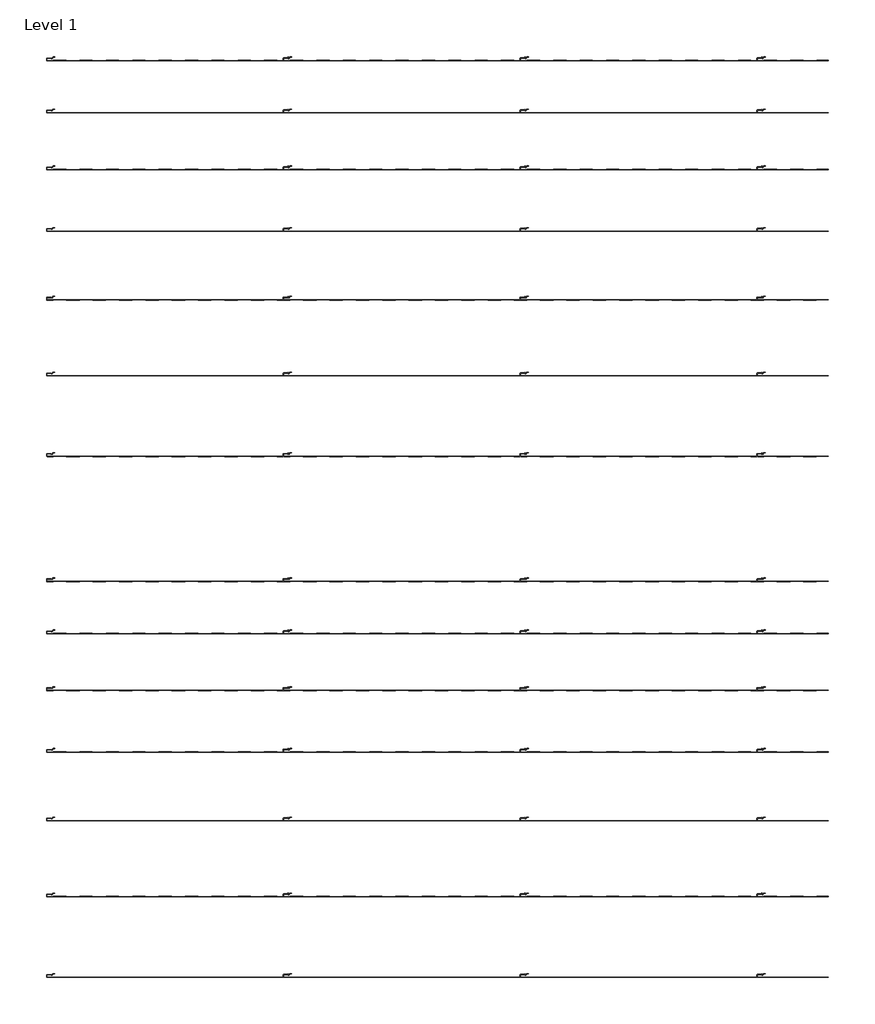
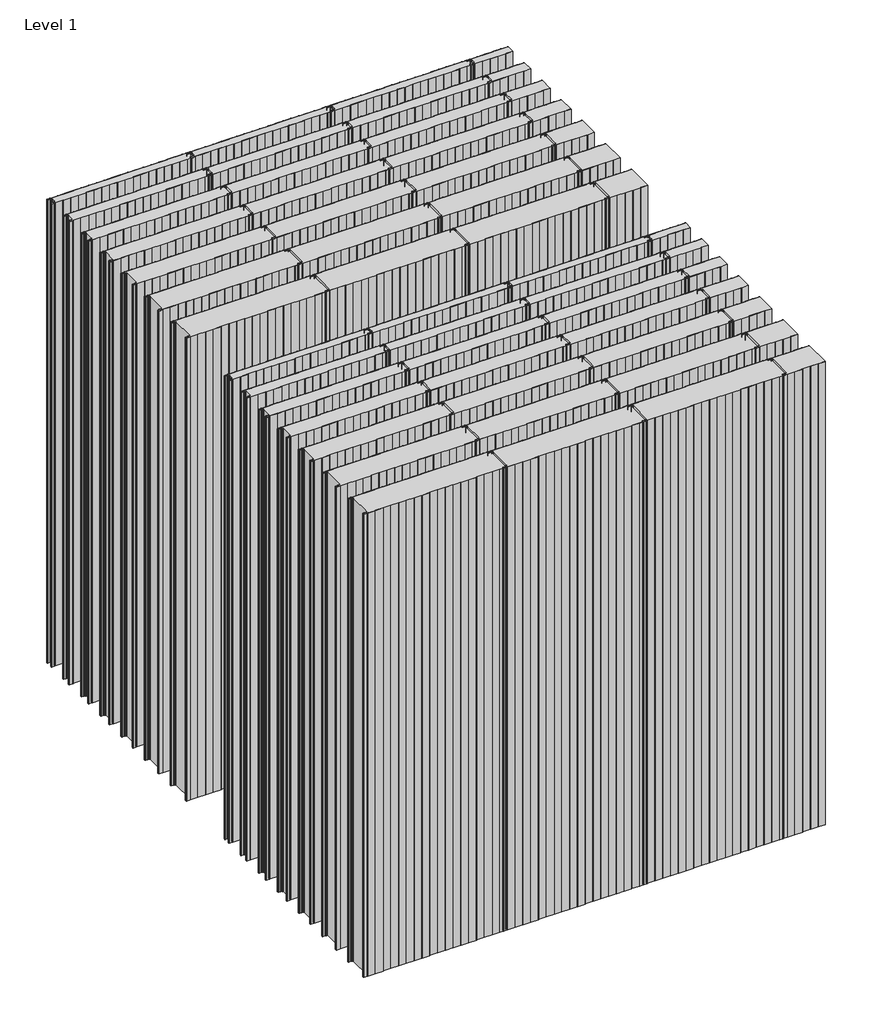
# One storey: 56 plates.
"""IFC4 building model written with IfcOpenShell, lengths in millimetres."""

from ifc_helpers import new_model, si_unit, origin, place, context, project, spatial, transform, mapped, element, save
from components import plate_5119aacf, plate_998a251c, plate_7081db1e, plate_ee1a2d1a, plate_315d219d, plate_80f3f18a, plate_cd7e678b, plate_023f9d0f, plate_281635d9, plate_da9b8946, plate_20741c4c, plate_a9801651, plate_97d00396, plate_6adf54ea, plate_353f5471

model = new_model("IFC4")

# Units and contexts
model_context = context("Model", 3, world=origin())
ifc_project = project(units=[si_unit("LENGTHUNIT", "METRE", prefix="MILLI")], contexts=[model_context])

# Site, building, storey
site = spatial("IfcSite", under=ifc_project)
building = spatial("IfcBuilding", under=site)
storey = spatial("IfcBuildingStorey", under=building, Name="Level 1", Elevation=0.0)

# Plates
placement = place(None, origin())
plate_shape = plate_5119aacf(model_context)
element("IfcPlate", 1, ObjectType="ACH_Panel-Frigorífico_PUR-PIR : ACH_Panel-Frigorífico-PIR_60mm", at=placement, inside=storey, context=model_context, shape_type="MappedRepresentation", body=[
    mapped(plate_shape, transform((-10804.4132588, 1820.6868121, 0.0), x_axis=(1.0, 0.0, 0.0), y_axis=(0.0, 1.0, 0.0), z_axis=(0.0, 0.0, 1.0))),
])
element("IfcPlate", 2, ObjectType="ACH_Panel-Frigorífico_PUR-PIR : ACH_Panel-Frigorífico-PIR_60mm", at=placement, inside=storey, context=model_context, shape_type="MappedRepresentation", body=[
    mapped(plate_shape, transform((-9804.4132588, 1820.6868121, 0.0), x_axis=(1.0, 0.0, 0.0), y_axis=(0.0, 1.0, 0.0), z_axis=(0.0, 0.0, 1.0))),
])
element("IfcPlate", 3, ObjectType="ACH_Panel-Frigorífico_PUR-PIR : ACH_Panel-Frigorífico-PIR_60mm", at=placement, inside=storey, context=model_context, shape_type="MappedRepresentation", body=[
    mapped(plate_shape, transform((-8804.4132588, 1820.6868121, 0.0), x_axis=(1.0, 0.0, 0.0), y_axis=(0.0, 1.0, 0.0), z_axis=(0.0, 0.0, 1.0))),
])
plate_2_shape = plate_998a251c(model_context)
element("IfcPlate", 4, ObjectType="ACH_Panel-Frigorífico_PUR-PIR : ACH_Panel-Frigorífico-PIR_60mm", at=placement, inside=storey, context=model_context, shape_type="MappedRepresentation", body=[
    mapped(plate_2_shape, transform((-8154.4132588, 1820.6868121, 0.0), x_axis=(1.0, 0.0, 0.0), y_axis=(0.0, 1.0, 0.0), z_axis=(0.0, 0.0, 1.0))),
])
plate_3_shape = plate_7081db1e(model_context)
element("IfcPlate", 5, ObjectType="ACH_Panel-Frigorífico_PUR-PIR : ACH_Panel-Frigorífico-PIR_80mm", at=placement, inside=storey, context=model_context, shape_type="MappedRepresentation", body=[
    mapped(plate_3_shape, transform((-10804.3893109, 1620.6868121, 0.0), x_axis=(1.0, 0.0, 0.0), y_axis=(0.0, 1.0, 0.0), z_axis=(0.0, 0.0, 1.0))),
])
element("IfcPlate", 6, ObjectType="ACH_Panel-Frigorífico_PUR-PIR : ACH_Panel-Frigorífico-PIR_80mm", at=placement, inside=storey, context=model_context, shape_type="MappedRepresentation", body=[
    mapped(plate_3_shape, transform((-9804.3893109, 1620.6868121, 0.0), x_axis=(1.0, 0.0, 0.0), y_axis=(0.0, 1.0, 0.0), z_axis=(0.0, 0.0, 1.0))),
])
element("IfcPlate", 7, ObjectType="ACH_Panel-Frigorífico_PUR-PIR : ACH_Panel-Frigorífico-PIR_80mm", at=placement, inside=storey, context=model_context, shape_type="MappedRepresentation", body=[
    mapped(plate_3_shape, transform((-8804.3893109, 1620.6868121, 0.0), x_axis=(1.0, 0.0, 0.0), y_axis=(0.0, 1.0, 0.0), z_axis=(0.0, 0.0, 1.0))),
])
plate_4_shape = plate_ee1a2d1a(model_context)
element("IfcPlate", 8, ObjectType="ACH_Panel-Frigorífico_PUR-PIR : ACH_Panel-Frigorífico-PIR_80mm", at=placement, inside=storey, context=model_context, shape_type="MappedRepresentation", body=[
    mapped(plate_4_shape, transform((-8154.4012848, 1620.6868121, 0.0), x_axis=(1.0, 0.0, 0.0), y_axis=(0.0, 1.0, 0.0), z_axis=(0.0, 0.0, 1.0))),
])
plate_5_shape = plate_315d219d(model_context)
element("IfcPlate", 9, ObjectType="ACH_Panel-Frigorífico_PUR-PIR : ACH_Panel-Frigorífico-PIR_120mm", at=placement, inside=storey, context=model_context, shape_type="MappedRepresentation", body=[
    mapped(plate_5_shape, transform((-10804.4132588, 1160.8868121, 0.0), x_axis=(1.0, 0.0, 0.0), y_axis=(0.0, 1.0, 0.0), z_axis=(0.0, 0.0, 1.0))),
])
element("IfcPlate", 10, ObjectType="ACH_Panel-Frigorífico_PUR-PIR : ACH_Panel-Frigorífico-PIR_120mm", at=placement, inside=storey, context=model_context, shape_type="MappedRepresentation", body=[
    mapped(plate_5_shape, transform((-9804.4132588, 1160.8868121, 0.0), x_axis=(1.0, 0.0, 0.0), y_axis=(0.0, 1.0, 0.0), z_axis=(0.0, 0.0, 1.0))),
])
element("IfcPlate", 11, ObjectType="ACH_Panel-Frigorífico_PUR-PIR : ACH_Panel-Frigorífico-PIR_120mm", at=placement, inside=storey, context=model_context, shape_type="MappedRepresentation", body=[
    mapped(plate_5_shape, transform((-8804.4132588, 1160.8868121, 0.0), x_axis=(1.0, 0.0, 0.0), y_axis=(0.0, 1.0, 0.0), z_axis=(0.0, 0.0, 1.0))),
])
plate_6_shape = plate_80f3f18a(model_context)
element("IfcPlate", 12, ObjectType="ACH_Panel-Frigorífico_PUR-PIR : ACH_Panel-Frigorífico-PIR_120mm", at=placement, inside=storey, context=model_context, shape_type="MappedRepresentation", body=[
    mapped(plate_6_shape, transform((-8154.4132588, 1160.8868121, 0.0), x_axis=(1.0, 0.0, 0.0), y_axis=(0.0, 1.0, 0.0), z_axis=(0.0, 0.0, 1.0))),
])
plate_7_shape = plate_cd7e678b(model_context)
element("IfcPlate", 13, ObjectType="ACH_Panel-Frigorífico_PUR-PIR : ACH_Panel-Frigorífico-PIR_150mm", at=placement, inside=storey, context=model_context, shape_type="MappedRepresentation", body=[
    mapped(plate_7_shape, transform((-10804.4132588, 900.8868121, 0.0), x_axis=(1.0, 0.0, 0.0), y_axis=(0.0, 1.0, 0.0), z_axis=(0.0, 0.0, 1.0))),
])
element("IfcPlate", 14, ObjectType="ACH_Panel-Frigorífico_PUR-PIR : ACH_Panel-Frigorífico-PIR_150mm", at=placement, inside=storey, context=model_context, shape_type="MappedRepresentation", body=[
    mapped(plate_7_shape, transform((-9804.4132588, 900.8868121, 0.0), x_axis=(1.0, 0.0, 0.0), y_axis=(0.0, 1.0, 0.0), z_axis=(0.0, 0.0, 1.0))),
])
element("IfcPlate", 15, ObjectType="ACH_Panel-Frigorífico_PUR-PIR : ACH_Panel-Frigorífico-PIR_150mm", at=placement, inside=storey, context=model_context, shape_type="MappedRepresentation", body=[
    mapped(plate_7_shape, transform((-8804.4132588, 900.8868121, 0.0), x_axis=(1.0, 0.0, 0.0), y_axis=(0.0, 1.0, 0.0), z_axis=(0.0, 0.0, 1.0))),
])
plate_8_shape = plate_023f9d0f(model_context)
element("IfcPlate", 16, ObjectType="ACH_Panel-Frigorífico_PUR-PIR : ACH_Panel-Frigorífico-PIR_150mm", at=placement, inside=storey, context=model_context, shape_type="MappedRepresentation", body=[
    mapped(plate_8_shape, transform((-8154.4132588, 900.8868121, 0.0), x_axis=(1.0, 0.0, 0.0), y_axis=(0.0, 1.0, 0.0), z_axis=(0.0, 0.0, 1.0))),
])
plate_9_shape = plate_281635d9(model_context)
element("IfcPlate", 17, ObjectType="ACH_Panel-Frigorífico_PUR-PIR : ACH_Panel-Frigorífico-PIR_100mm", at=placement, inside=storey, context=model_context, shape_type="MappedRepresentation", body=[
    mapped(plate_9_shape, transform((-10804.4132588, 1400.8868121, 0.0), x_axis=(1.0, 0.0, 0.0), y_axis=(0.0, 1.0, 0.0), z_axis=(0.0, 0.0, 1.0))),
])
element("IfcPlate", 18, ObjectType="ACH_Panel-Frigorífico_PUR-PIR : ACH_Panel-Frigorífico-PIR_100mm", at=placement, inside=storey, context=model_context, shape_type="MappedRepresentation", body=[
    mapped(plate_9_shape, transform((-9804.4132588, 1400.8868121, 0.0), x_axis=(1.0, 0.0, 0.0), y_axis=(0.0, 1.0, 0.0), z_axis=(0.0, 0.0, 1.0))),
])
element("IfcPlate", 19, ObjectType="ACH_Panel-Frigorífico_PUR-PIR : ACH_Panel-Frigorífico-PIR_100mm", at=placement, inside=storey, context=model_context, shape_type="MappedRepresentation", body=[
    mapped(plate_9_shape, transform((-8804.4132588, 1400.8868121, 0.0), x_axis=(1.0, 0.0, 0.0), y_axis=(0.0, 1.0, 0.0), z_axis=(0.0, 0.0, 1.0))),
])
plate_10_shape = plate_da9b8946(model_context)
element("IfcPlate", 20, ObjectType="ACH_Panel-Frigorífico_PUR-PIR : ACH_Panel-Frigorífico-PIR_100mm", at=placement, inside=storey, context=model_context, shape_type="MappedRepresentation", body=[
    mapped(plate_10_shape, transform((-8154.4132588, 1400.8868121, 0.0), x_axis=(1.0, 0.0, 0.0), y_axis=(0.0, 1.0, 0.0), z_axis=(0.0, 0.0, 1.0))),
])
plate_11_shape = plate_20741c4c(model_context)
element("IfcPlate", 21, ObjectType="ACH_Panel-Frigorífico_PUR-PIR : ACH_Panel-Frigorífico-PIR_180mm", at=placement, inside=storey, context=model_context, shape_type="MappedRepresentation", body=[
    mapped(plate_11_shape, transform((-10804.4132588, 610.8868121, 0.0), x_axis=(1.0, 0.0, 0.0), y_axis=(0.0, 1.0, 0.0), z_axis=(0.0, 0.0, 1.0))),
])
element("IfcPlate", 22, ObjectType="ACH_Panel-Frigorífico_PUR-PIR : ACH_Panel-Frigorífico-PIR_180mm", at=placement, inside=storey, context=model_context, shape_type="MappedRepresentation", body=[
    mapped(plate_11_shape, transform((-9804.4132588, 610.8868121, 0.0), x_axis=(1.0, 0.0, 0.0), y_axis=(0.0, 1.0, 0.0), z_axis=(0.0, 0.0, 1.0))),
])
element("IfcPlate", 23, ObjectType="ACH_Panel-Frigorífico_PUR-PIR : ACH_Panel-Frigorífico-PIR_180mm", at=placement, inside=storey, context=model_context, shape_type="MappedRepresentation", body=[
    mapped(plate_11_shape, transform((-8804.4132588, 610.8868121, 0.0), x_axis=(1.0, 0.0, 0.0), y_axis=(0.0, 1.0, 0.0), z_axis=(0.0, 0.0, 1.0))),
])
plate_12_shape = plate_a9801651(model_context)
element("IfcPlate", 24, ObjectType="ACH_Panel-Frigorífico_PUR-PIR : ACH_Panel-Frigorífico-PIR_180mm", at=placement, inside=storey, context=model_context, shape_type="MappedRepresentation", body=[
    mapped(plate_12_shape, transform((-8154.4132588, 610.8868121, 0.0), x_axis=(1.0, 0.0, 0.0), y_axis=(0.0, 1.0, 0.0), z_axis=(0.0, 0.0, 1.0))),
])
plate_13_shape = plate_97d00396(model_context)
element("IfcPlate", 25, ObjectType="ACH_Panel-Frigorífico_PUR-PIR : ACH_Panel-Frigorífico-PIR_200mm", at=placement, inside=storey, context=model_context, shape_type="MappedRepresentation", body=[
    mapped(plate_13_shape, transform((-10804.4132588, 290.8868121, 0.0), x_axis=(1.0, 0.0, 0.0), y_axis=(0.0, 1.0, 0.0), z_axis=(0.0, 0.0, 1.0))),
])
element("IfcPlate", 26, ObjectType="ACH_Panel-Frigorífico_PUR-PIR : ACH_Panel-Frigorífico-PIR_200mm", at=placement, inside=storey, context=model_context, shape_type="MappedRepresentation", body=[
    mapped(plate_13_shape, transform((-9804.4132588, 290.8868121, 0.0), x_axis=(1.0, 0.0, 0.0), y_axis=(0.0, 1.0, 0.0), z_axis=(0.0, 0.0, 1.0))),
])
element("IfcPlate", 27, ObjectType="ACH_Panel-Frigorífico_PUR-PIR : ACH_Panel-Frigorífico-PIR_200mm", at=placement, inside=storey, context=model_context, shape_type="MappedRepresentation", body=[
    mapped(plate_13_shape, transform((-8804.4132588, 290.8868121, 0.0), x_axis=(1.0, 0.0, 0.0), y_axis=(0.0, 1.0, 0.0), z_axis=(0.0, 0.0, 1.0))),
])
plate_14_shape = plate_6adf54ea(model_context)
element("IfcPlate", 28, ObjectType="ACH_Panel-Frigorífico_PUR-PIR : ACH_Panel-Frigorífico-PIR_200mm", at=placement, inside=storey, context=model_context, shape_type="MappedRepresentation", body=[
    mapped(plate_14_shape, transform((-8154.4132588, 290.8868121, 0.0), x_axis=(1.0, 0.0, 0.0), y_axis=(0.0, 1.0, 0.0), z_axis=(0.0, 0.0, 1.0))),
])
element("IfcPlate", 29, ObjectType="ACH_Panel-Frigorífico_PUR-PIR : ACH_Panel-Frigorífico-PUR_60mm", at=placement, inside=storey, context=model_context, shape_type="MappedRepresentation", body=[
    mapped(plate_shape, transform((-10804.4132588, -376.8764959, 0.0), x_axis=(1.0, 0.0, 0.0), y_axis=(0.0, 1.0, 0.0), z_axis=(0.0, 0.0, 1.0))),
])
element("IfcPlate", 30, ObjectType="ACH_Panel-Frigorífico_PUR-PIR : ACH_Panel-Frigorífico-PUR_60mm", at=placement, inside=storey, context=model_context, shape_type="MappedRepresentation", body=[
    mapped(plate_shape, transform((-9804.4132588, -376.8764959, 0.0), x_axis=(1.0, 0.0, 0.0), y_axis=(0.0, 1.0, 0.0), z_axis=(0.0, 0.0, 1.0))),
])
element("IfcPlate", 31, ObjectType="ACH_Panel-Frigorífico_PUR-PIR : ACH_Panel-Frigorífico-PUR_60mm", at=placement, inside=storey, context=model_context, shape_type="MappedRepresentation", body=[
    mapped(plate_shape, transform((-8804.4132588, -376.8764959, 0.0), x_axis=(1.0, 0.0, 0.0), y_axis=(0.0, 1.0, 0.0), z_axis=(0.0, 0.0, 1.0))),
])
element("IfcPlate", 32, ObjectType="ACH_Panel-Frigorífico_PUR-PIR : ACH_Panel-Frigorífico-PUR_60mm", at=placement, inside=storey, context=model_context, shape_type="MappedRepresentation", body=[
    mapped(plate_2_shape, transform((-8154.4132588, -376.8764959, 0.0), x_axis=(1.0, 0.0, 0.0), y_axis=(0.0, 1.0, 0.0), z_axis=(0.0, 0.0, 1.0))),
])
element("IfcPlate", 33, ObjectType="ACH_Panel-Frigorífico_PUR-PIR : ACH_Panel-Frigorífico-PUR_80mm", at=placement, inside=storey, context=model_context, shape_type="MappedRepresentation", body=[
    mapped(plate_3_shape, transform((-10804.4132588, -576.8764959, 0.0), x_axis=(1.0, 0.0, 0.0), y_axis=(0.0, 1.0, 0.0), z_axis=(0.0, 0.0, 1.0))),
])
element("IfcPlate", 34, ObjectType="ACH_Panel-Frigorífico_PUR-PIR : ACH_Panel-Frigorífico-PUR_80mm", at=placement, inside=storey, context=model_context, shape_type="MappedRepresentation", body=[
    mapped(plate_3_shape, transform((-9804.4132588, -576.8764959, 0.0), x_axis=(1.0, 0.0, 0.0), y_axis=(0.0, 1.0, 0.0), z_axis=(0.0, 0.0, 1.0))),
])
element("IfcPlate", 35, ObjectType="ACH_Panel-Frigorífico_PUR-PIR : ACH_Panel-Frigorífico-PUR_80mm", at=placement, inside=storey, context=model_context, shape_type="MappedRepresentation", body=[
    mapped(plate_3_shape, transform((-8804.4132588, -576.8764959, 0.0), x_axis=(1.0, 0.0, 0.0), y_axis=(0.0, 1.0, 0.0), z_axis=(0.0, 0.0, 1.0))),
])
plate_15_shape = plate_353f5471(model_context)
element("IfcPlate", 36, ObjectType="ACH_Panel-Frigorífico_PUR-PIR : ACH_Panel-Frigorífico-PUR_80mm", at=placement, inside=storey, context=model_context, shape_type="MappedRepresentation", body=[
    mapped(plate_15_shape, transform((-8154.4132588, -576.8764959, 0.0), x_axis=(1.0, 0.0, 0.0), y_axis=(0.0, 1.0, 0.0), z_axis=(0.0, 0.0, 1.0))),
])
element("IfcPlate", 37, ObjectType="ACH_Panel-Frigorífico_PUR-PIR : ACH_Panel-Frigorífico-PUR_120mm", at=placement, inside=storey, context=model_context, shape_type="MappedRepresentation", body=[
    mapped(plate_5_shape, transform((-10804.4132588, -1036.6764959, 0.0), x_axis=(1.0, 0.0, 0.0), y_axis=(0.0, 1.0, 0.0), z_axis=(0.0, 0.0, 1.0))),
])
element("IfcPlate", 38, ObjectType="ACH_Panel-Frigorífico_PUR-PIR : ACH_Panel-Frigorífico-PUR_120mm", at=placement, inside=storey, context=model_context, shape_type="MappedRepresentation", body=[
    mapped(plate_5_shape, transform((-9804.4132588, -1036.6764959, 0.0), x_axis=(1.0, 0.0, 0.0), y_axis=(0.0, 1.0, 0.0), z_axis=(0.0, 0.0, 1.0))),
])
element("IfcPlate", 39, ObjectType="ACH_Panel-Frigorífico_PUR-PIR : ACH_Panel-Frigorífico-PUR_120mm", at=placement, inside=storey, context=model_context, shape_type="MappedRepresentation", body=[
    mapped(plate_5_shape, transform((-8804.4132588, -1036.6764959, 0.0), x_axis=(1.0, 0.0, 0.0), y_axis=(0.0, 1.0, 0.0), z_axis=(0.0, 0.0, 1.0))),
])
element("IfcPlate", 40, ObjectType="ACH_Panel-Frigorífico_PUR-PIR : ACH_Panel-Frigorífico-PUR_120mm", at=placement, inside=storey, context=model_context, shape_type="MappedRepresentation", body=[
    mapped(plate_6_shape, transform((-8154.4132588, -1036.6764959, 0.0), x_axis=(1.0, 0.0, 0.0), y_axis=(0.0, 1.0, 0.0), z_axis=(0.0, 0.0, 1.0))),
])
element("IfcPlate", 41, ObjectType="ACH_Panel-Frigorífico_PUR-PIR : ACH_Panel-Frigorífico-PUR_150mm", at=placement, inside=storey, context=model_context, shape_type="MappedRepresentation", body=[
    mapped(plate_7_shape, transform((-10804.4132588, -1296.6764959, 0.0), x_axis=(1.0, 0.0, 0.0), y_axis=(0.0, 1.0, 0.0), z_axis=(0.0, 0.0, 1.0))),
])
element("IfcPlate", 42, ObjectType="ACH_Panel-Frigorífico_PUR-PIR : ACH_Panel-Frigorífico-PUR_150mm", at=placement, inside=storey, context=model_context, shape_type="MappedRepresentation", body=[
    mapped(plate_7_shape, transform((-9804.4132588, -1296.6764959, 0.0), x_axis=(1.0, 0.0, 0.0), y_axis=(0.0, 1.0, 0.0), z_axis=(0.0, 0.0, 1.0))),
])
element("IfcPlate", 43, ObjectType="ACH_Panel-Frigorífico_PUR-PIR : ACH_Panel-Frigorífico-PUR_150mm", at=placement, inside=storey, context=model_context, shape_type="MappedRepresentation", body=[
    mapped(plate_7_shape, transform((-8804.4132588, -1296.6764959, 0.0), x_axis=(1.0, 0.0, 0.0), y_axis=(0.0, 1.0, 0.0), z_axis=(0.0, 0.0, 1.0))),
])
element("IfcPlate", 44, ObjectType="ACH_Panel-Frigorífico_PUR-PIR : ACH_Panel-Frigorífico-PUR_150mm", at=placement, inside=storey, context=model_context, shape_type="MappedRepresentation", body=[
    mapped(plate_8_shape, transform((-8154.4132588, -1296.6764959, 0.0), x_axis=(1.0, 0.0, 0.0), y_axis=(0.0, 1.0, 0.0), z_axis=(0.0, 0.0, 1.0))),
])
element("IfcPlate", 45, ObjectType="ACH_Panel-Frigorífico_PUR-PIR : ACH_Panel-Frigorífico-PUR_100mm", at=placement, inside=storey, context=model_context, shape_type="MappedRepresentation", body=[
    mapped(plate_9_shape, transform((-10804.4132588, -796.6764959, 0.0), x_axis=(1.0, 0.0, 0.0), y_axis=(0.0, 1.0, 0.0), z_axis=(0.0, 0.0, 1.0))),
])
element("IfcPlate", 46, ObjectType="ACH_Panel-Frigorífico_PUR-PIR : ACH_Panel-Frigorífico-PUR_100mm", at=placement, inside=storey, context=model_context, shape_type="MappedRepresentation", body=[
    mapped(plate_9_shape, transform((-9804.4132588, -796.6764959, 0.0), x_axis=(1.0, 0.0, 0.0), y_axis=(0.0, 1.0, 0.0), z_axis=(0.0, 0.0, 1.0))),
])
element("IfcPlate", 47, ObjectType="ACH_Panel-Frigorífico_PUR-PIR : ACH_Panel-Frigorífico-PUR_100mm", at=placement, inside=storey, context=model_context, shape_type="MappedRepresentation", body=[
    mapped(plate_9_shape, transform((-8804.4132588, -796.6764959, 0.0), x_axis=(1.0, 0.0, 0.0), y_axis=(0.0, 1.0, 0.0), z_axis=(0.0, 0.0, 1.0))),
])
element("IfcPlate", 48, ObjectType="ACH_Panel-Frigorífico_PUR-PIR : ACH_Panel-Frigorífico-PUR_100mm", at=placement, inside=storey, context=model_context, shape_type="MappedRepresentation", body=[
    mapped(plate_10_shape, transform((-8154.4132588, -796.6764959, 0.0), x_axis=(1.0, 0.0, 0.0), y_axis=(0.0, 1.0, 0.0), z_axis=(0.0, 0.0, 1.0))),
])
element("IfcPlate", 49, ObjectType="ACH_Panel-Frigorífico_PUR-PIR : ACH_Panel-Frigorífico-PUR_180mm", at=placement, inside=storey, context=model_context, shape_type="MappedRepresentation", body=[
    mapped(plate_11_shape, transform((-10804.4132588, -1586.6764959, 0.0), x_axis=(1.0, 0.0, 0.0), y_axis=(0.0, 1.0, 0.0), z_axis=(0.0, 0.0, 1.0))),
])
element("IfcPlate", 50, ObjectType="ACH_Panel-Frigorífico_PUR-PIR : ACH_Panel-Frigorífico-PUR_180mm", at=placement, inside=storey, context=model_context, shape_type="MappedRepresentation", body=[
    mapped(plate_11_shape, transform((-9804.4132588, -1586.6764959, 0.0), x_axis=(1.0, 0.0, 0.0), y_axis=(0.0, 1.0, 0.0), z_axis=(0.0, 0.0, 1.0))),
])
element("IfcPlate", 51, ObjectType="ACH_Panel-Frigorífico_PUR-PIR : ACH_Panel-Frigorífico-PUR_180mm", at=placement, inside=storey, context=model_context, shape_type="MappedRepresentation", body=[
    mapped(plate_11_shape, transform((-8804.4132588, -1586.6764959, 0.0), x_axis=(1.0, 0.0, 0.0), y_axis=(0.0, 1.0, 0.0), z_axis=(0.0, 0.0, 1.0))),
])
element("IfcPlate", 52, ObjectType="ACH_Panel-Frigorífico_PUR-PIR : ACH_Panel-Frigorífico-PUR_180mm", at=placement, inside=storey, context=model_context, shape_type="MappedRepresentation", body=[
    mapped(plate_12_shape, transform((-8154.4132588, -1586.6764959, 0.0), x_axis=(1.0, 0.0, 0.0), y_axis=(0.0, 1.0, 0.0), z_axis=(0.0, 0.0, 1.0))),
])
element("IfcPlate", 53, ObjectType="ACH_Panel-Frigorífico_PUR-PIR : ACH_Panel-Frigorífico-PUR_200mm", at=placement, inside=storey, context=model_context, shape_type="MappedRepresentation", body=[
    mapped(plate_13_shape, transform((-10804.4132588, -1906.6764959, 0.0), x_axis=(1.0, 0.0, 0.0), y_axis=(0.0, 1.0, 0.0), z_axis=(0.0, 0.0, 1.0))),
])
element("IfcPlate", 54, ObjectType="ACH_Panel-Frigorífico_PUR-PIR : ACH_Panel-Frigorífico-PUR_200mm", at=placement, inside=storey, context=model_context, shape_type="MappedRepresentation", body=[
    mapped(plate_13_shape, transform((-9804.4132588, -1906.6764959, 0.0), x_axis=(1.0, 0.0, 0.0), y_axis=(0.0, 1.0, 0.0), z_axis=(0.0, 0.0, 1.0))),
])
element("IfcPlate", 55, ObjectType="ACH_Panel-Frigorífico_PUR-PIR : ACH_Panel-Frigorífico-PUR_200mm", at=placement, inside=storey, context=model_context, shape_type="MappedRepresentation", body=[
    mapped(plate_13_shape, transform((-8804.4132588, -1906.6764959, 0.0), x_axis=(1.0, 0.0, 0.0), y_axis=(0.0, 1.0, 0.0), z_axis=(0.0, 0.0, 1.0))),
])
element("IfcPlate", 56, ObjectType="ACH_Panel-Frigorífico_PUR-PIR : ACH_Panel-Frigorífico-PUR_200mm", at=placement, inside=storey, context=model_context, shape_type="MappedRepresentation", body=[
    mapped(plate_14_shape, transform((-8154.4132588, -1906.6764959, 0.0), x_axis=(1.0, 0.0, 0.0), y_axis=(0.0, 1.0, 0.0), z_axis=(0.0, 0.0, 1.0))),
])

save(model, "model.ifc")
